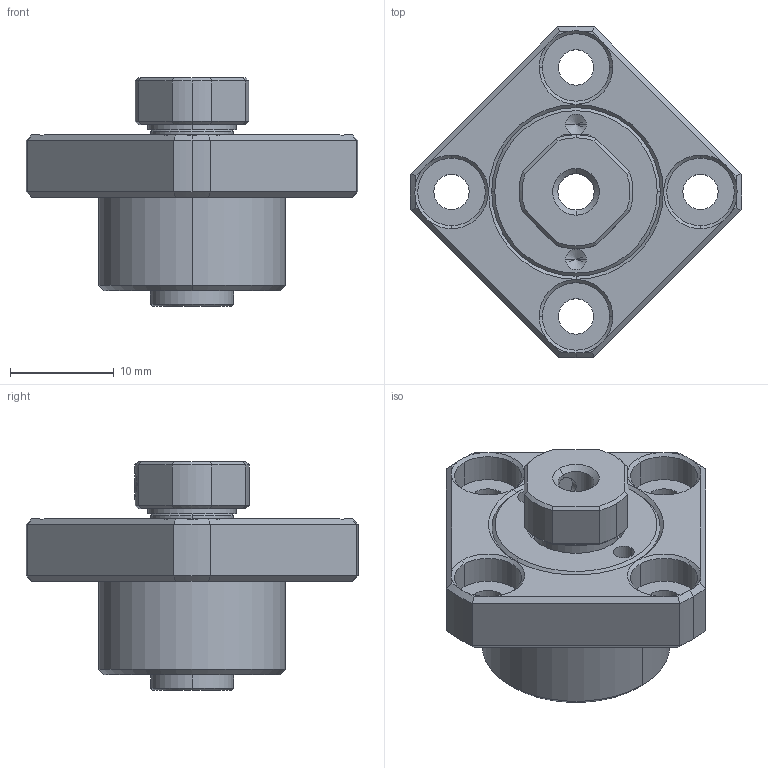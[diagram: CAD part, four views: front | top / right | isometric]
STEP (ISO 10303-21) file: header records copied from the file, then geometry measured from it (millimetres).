
FILE_DESCRIPTION (( 'STEP AP203' ), '1' );
FILE_NAME ('FSGK-4-P0-C7_203.STEP', '2013-02-28T00:17:32', ( '' ), ( '' ), 'SwSTEP 2.0', 'SolidWorks 2012', '' );
FILE_SCHEMA (( 'CONFIG_CONTROL_DESIGN' ));
Length unit declared in the file: millimetre
Products named in the file (1): FSGK-4-P0-C7_203
Bounding box: 31.98 x 32 x 22 mm (x, y, z)
Volume: 5566.6 mm3; surface area: 3851.9 mm2
Topology: 1 solids, 4 shells, 222 faces, 517 edges, 311 vertices
Faces by surface type: cone 78, cylinder 67, plane 61, torus 16
Entity records: 6521 total; most frequent: CARTESIAN_POINT 1277, DIRECTION 1170, ORIENTED_EDGE 1026, EDGE_CURVE 513, AXIS2_PLACEMENT_3D 490, VERTEX_POINT 311, CIRCLE 267, EDGE_LOOP 250
